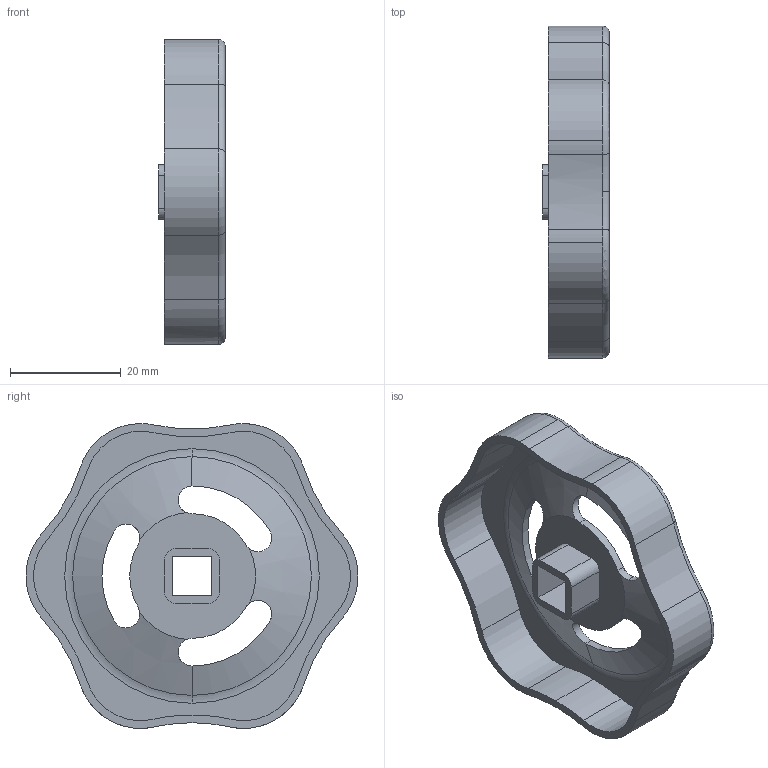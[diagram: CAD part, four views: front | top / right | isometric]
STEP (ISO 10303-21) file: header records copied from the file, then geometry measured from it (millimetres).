
FILE_DESCRIPTION (( 'STEP AP214' ), '1' );
FILE_NAME ('227.6-ST-60-V7-RT.step', '2019-07-30T13:25:57', ( 'user' ), ( '' ), 'SwSTEP 2.0', 'SolidWorks 2019', '' );
FILE_SCHEMA (( 'AUTOMOTIVE_DESIGN' ));
Length unit declared in the file: millimetre
Products named in the file (1): 227.6-ST-60-V7-RT
Bounding box: 12 x 59.92 x 55.04 mm (x, y, z)
Volume: 5808.1 mm3; surface area: 8771.1 mm2
Topology: 1 solids, 1 shells, 85 faces, 229 edges, 144 vertices
Faces by surface type: cylinder 48, torus 19, plane 14, cone 4
Entity records: 3046 total; most frequent: CARTESIAN_POINT 775, DIRECTION 522, ORIENTED_EDGE 458, EDGE_CURVE 229, AXIS2_PLACEMENT_3D 223, VERTEX_POINT 144, CIRCLE 137, EDGE_LOOP 91
